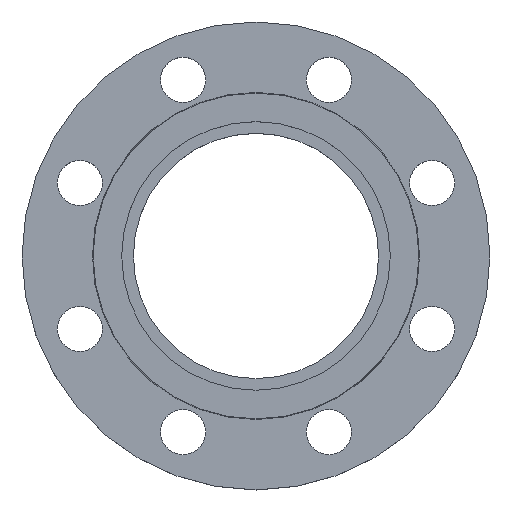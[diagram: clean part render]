
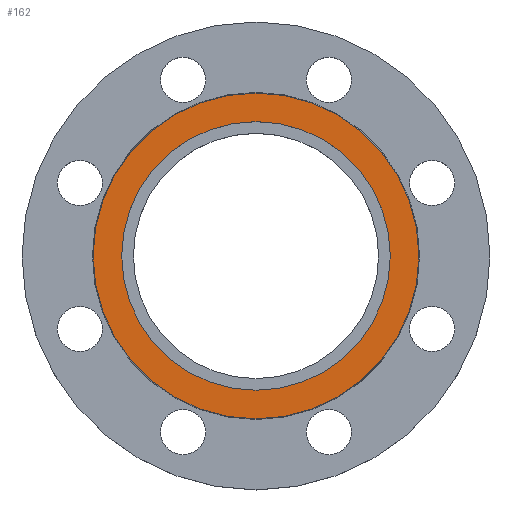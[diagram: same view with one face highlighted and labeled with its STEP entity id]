
A CAD part, top view. The second image highlights one B-rep face of the part: STEP entity #162.
In plain terms, the highlighted planar face has unit normal (0, 0, 1).
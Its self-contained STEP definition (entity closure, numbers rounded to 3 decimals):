
#2 = ORIENTED_EDGE ( 'NONE', *, *, #493, .T. ) ;
#8 = CIRCLE ( 'NONE', #578, 77.5 ) ;
#20 = DIRECTION ( 'NONE',  ( 0., 0., -1. ) ) ;
#38 = CARTESIAN_POINT ( 'NONE',  ( -94., 0., 0. ) ) ;
#45 = DIRECTION ( 'NONE',  ( -1., 0., 0. ) ) ;
#65 = CARTESIAN_POINT ( 'NONE',  ( 0., 0., 0. ) ) ;
#148 = AXIS2_PLACEMENT_3D ( 'NONE', #876, #201, #518 ) ;
#162 = ADVANCED_FACE ( 'NONE', ( #938, #282 ), #590, .T. ) ;
#182 = CIRCLE ( 'NONE', #755, 77.5 ) ;
#201 = DIRECTION ( 'NONE',  ( 0., 0., 1. ) ) ;
#260 = CARTESIAN_POINT ( 'NONE',  ( -77.5, 0., 0. ) ) ;
#282 = FACE_BOUND ( 'NONE', #360, .T. ) ;
#318 = VERTEX_POINT ( 'NONE', #260 ) ;
#335 = DIRECTION ( 'NONE',  ( -1., 0., 0. ) ) ;
#360 = EDGE_LOOP ( 'NONE', ( #2, #413 ) ) ;
#362 = CARTESIAN_POINT ( 'NONE',  ( 0., 0., 0. ) ) ;
#387 = DIRECTION ( 'NONE',  ( 0., 0., -1. ) ) ;
#401 = EDGE_CURVE ( 'NONE', #843, #463, #875, .T. ) ;
#413 = ORIENTED_EDGE ( 'NONE', *, *, #649, .T. ) ;
#417 = ORIENTED_EDGE ( 'NONE', *, *, #568, .F. ) ;
#442 = CARTESIAN_POINT ( 'NONE',  ( 0., 0., 0. ) ) ;
#463 = VERTEX_POINT ( 'NONE', #38 ) ;
#471 = AXIS2_PLACEMENT_3D ( 'NONE', #362, #499, #797 ) ;
#481 = AXIS2_PLACEMENT_3D ( 'NONE', #65, #387, #692 ) ;
#493 = EDGE_CURVE ( 'NONE', #318, #964, #182, .T. ) ;
#499 = DIRECTION ( 'NONE',  ( 0., 0., -1. ) ) ;
#518 = DIRECTION ( 'NONE',  ( 1., 0., 0. ) ) ;
#568 = EDGE_CURVE ( 'NONE', #463, #843, #779, .T. ) ;
#578 = AXIS2_PLACEMENT_3D ( 'NONE', #719, #20, #335 ) ;
#590 = PLANE ( 'NONE',  #148 ) ;
#597 = CARTESIAN_POINT ( 'NONE',  ( 77.5, 0., 0. ) ) ;
#649 = EDGE_CURVE ( 'NONE', #964, #318, #8, .T. ) ;
#692 = DIRECTION ( 'NONE',  ( -1., 0., 0. ) ) ;
#719 = CARTESIAN_POINT ( 'NONE',  ( 0., 0., 0. ) ) ;
#744 = DIRECTION ( 'NONE',  ( 0., 0., -1. ) ) ;
#748 = ORIENTED_EDGE ( 'NONE', *, *, #401, .F. ) ;
#754 = EDGE_LOOP ( 'NONE', ( #417, #748 ) ) ;
#755 = AXIS2_PLACEMENT_3D ( 'NONE', #442, #744, #45 ) ;
#779 = CIRCLE ( 'NONE', #481, 94. ) ;
#797 = DIRECTION ( 'NONE',  ( -1., 0., 0. ) ) ;
#815 = CARTESIAN_POINT ( 'NONE',  ( 94., 0., 0. ) ) ;
#843 = VERTEX_POINT ( 'NONE', #815 ) ;
#875 = CIRCLE ( 'NONE', #471, 94. ) ;
#876 = CARTESIAN_POINT ( 'NONE',  ( 0., 0., 0. ) ) ;
#938 = FACE_OUTER_BOUND ( 'NONE', #754, .T. ) ;
#964 = VERTEX_POINT ( 'NONE', #597 ) ;
